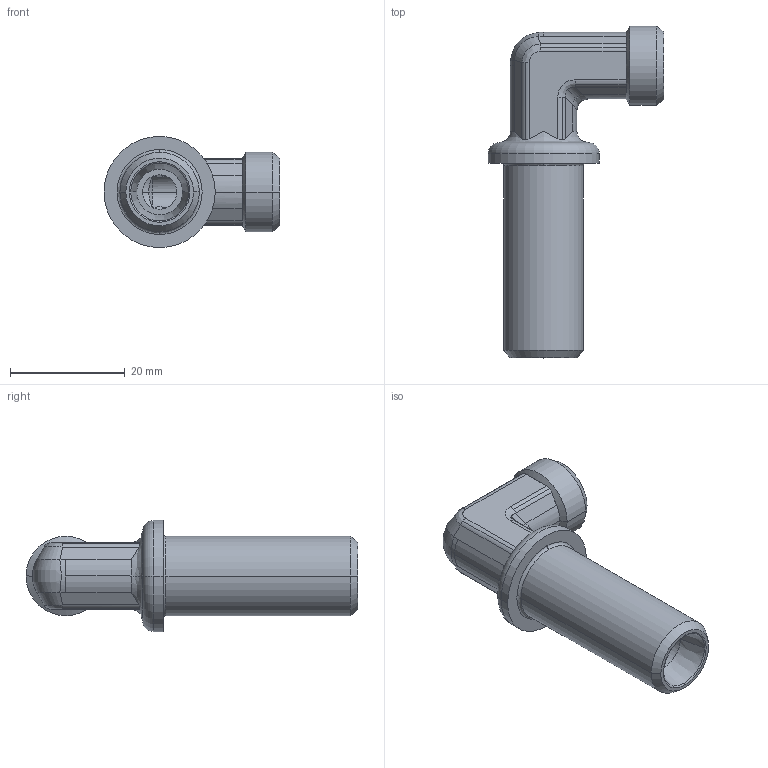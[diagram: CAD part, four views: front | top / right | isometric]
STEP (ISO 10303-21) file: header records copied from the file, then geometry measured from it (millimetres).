
FILE_DESCRIPTION((''),'2;1');
FILE_NAME('103705.stp','2007-10-31T11:48:21',(''),(''),'AutoCAD STEP 2000i','AutoCAD 2000i',', , ');
FILE_SCHEMA(('CONFIG_CONTROL_DESIGN'));
Length unit declared in the file: millimetre
Products named in the file (2): 103705.0; 3092#0
Assembly tree (1 placements, depth 2):
  103705.0
    3092#0
Bounding box: 30.7 x 57.92 x 19.4 mm (x, y, z)
Volume: 7684.7 mm3; surface area: 4890.3 mm2
Topology: 1 solids, 1 shells, 107 faces, 247 edges, 145 vertices
Faces by surface type: cylinder 46, plane 23, cone 18, bspline 16, torus 4
Entity records: 4067 total; most frequent: CARTESIAN_POINT 1557, DIRECTION 530, ORIENTED_EDGE 494, EDGE_CURVE 247, AXIS2_PLACEMENT_3D 224, VERTEX_POINT 145, CIRCLE 113, EDGE_LOOP 112
